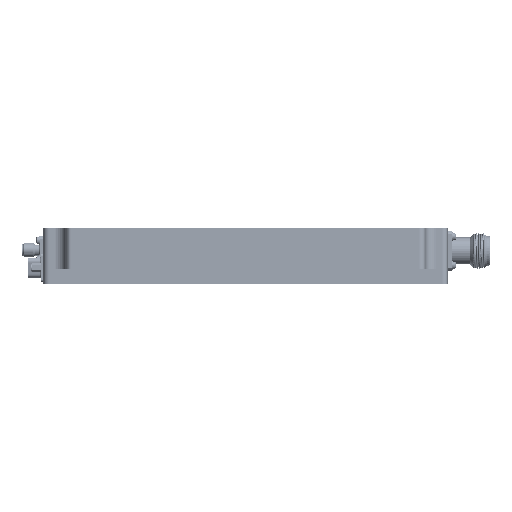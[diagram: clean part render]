
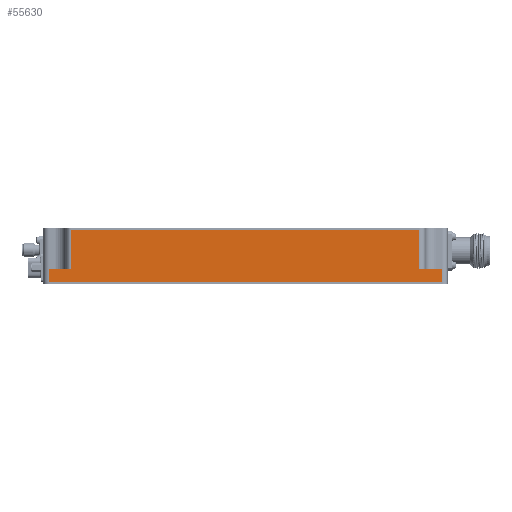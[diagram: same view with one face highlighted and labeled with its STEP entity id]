
A CAD part, front view. The second image highlights one B-rep face of the part: STEP entity #55630.
In plain terms, the highlighted planar face has unit normal (0, -1, 0).
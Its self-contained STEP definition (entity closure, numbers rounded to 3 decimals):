
#27 = EDGE_CURVE ( 'NONE', #34122, #17589, #30613, .T. ) ;
#354 = VECTOR ( 'NONE', #53076, 1000. ) ;
#1210 = EDGE_LOOP ( 'NONE', ( #50122, #26664, #55564, #27562, #38246, #64899, #22857, #36528 ) ) ;
#1937 = VERTEX_POINT ( 'NONE', #58488 ) ;
#4380 = CARTESIAN_POINT ( 'NONE',  ( 2.5, 0., 5.8 ) ) ;
#5806 = CARTESIAN_POINT ( 'NONE',  ( 0., 0., 23. ) ) ;
#6002 = VERTEX_POINT ( 'NONE', #25335 ) ;
#6797 = DIRECTION ( 'NONE',  ( 0., 0., 1. ) ) ;
#7760 = PLANE ( 'NONE',  #61375 ) ;
#8313 = EDGE_CURVE ( 'NONE', #34731, #34122, #30806, .T. ) ;
#8381 = CARTESIAN_POINT ( 'NONE',  ( 167.5, 0., 23. ) ) ;
#9065 = VECTOR ( 'NONE', #55945, 1000. ) ;
#10765 = LINE ( 'NONE', #66854, #9065 ) ;
#10921 = VERTEX_POINT ( 'NONE', #4380 ) ;
#11405 = EDGE_CURVE ( 'NONE', #6002, #1937, #33552, .T. ) ;
#13284 = CARTESIAN_POINT ( 'NONE',  ( 2.5, 0., 5.8 ) ) ;
#13401 = CARTESIAN_POINT ( 'NONE',  ( 12.5, 0., 23. ) ) ;
#14070 = LINE ( 'NONE', #14142, #354 ) ;
#14142 = CARTESIAN_POINT ( 'NONE',  ( 2.5, 0., 5.8 ) ) ;
#14299 = EDGE_CURVE ( 'NONE', #1937, #53774, #44469, .T. ) ;
#16258 = DIRECTION ( 'NONE',  ( 0., 0., 1. ) ) ;
#16871 = DIRECTION ( 'NONE',  ( 1., 0., 0. ) ) ;
#17589 = VERTEX_POINT ( 'NONE', #66836 ) ;
#18624 = DIRECTION ( 'NONE',  ( 0., 1., 0. ) ) ;
#19347 = CARTESIAN_POINT ( 'NONE',  ( 177.5, 0., 0. ) ) ;
#22096 = VECTOR ( 'NONE', #41942, 1000. ) ;
#22857 = ORIENTED_EDGE ( 'NONE', *, *, #26351, .F. ) ;
#24932 = VERTEX_POINT ( 'NONE', #28796 ) ;
#25335 = CARTESIAN_POINT ( 'NONE',  ( 177.5, 0., 5.8 ) ) ;
#26351 = EDGE_CURVE ( 'NONE', #24932, #6002, #10765, .T. ) ;
#26664 = ORIENTED_EDGE ( 'NONE', *, *, #8313, .F. ) ;
#27562 = ORIENTED_EDGE ( 'NONE', *, *, #59778, .F. ) ;
#28438 = DIRECTION ( 'NONE',  ( 0., 0., -1. ) ) ;
#28796 = CARTESIAN_POINT ( 'NONE',  ( 167.5, 0., 5.8 ) ) ;
#30613 = LINE ( 'NONE', #5806, #41014 ) ;
#30806 = LINE ( 'NONE', #34859, #67186 ) ;
#33552 = LINE ( 'NONE', #44892, #62969 ) ;
#34116 = CARTESIAN_POINT ( 'NONE',  ( 12.5, 0., 5.8 ) ) ;
#34122 = VERTEX_POINT ( 'NONE', #13401 ) ;
#34731 = VERTEX_POINT ( 'NONE', #34116 ) ;
#34859 = CARTESIAN_POINT ( 'NONE',  ( 12.5, 0., 5.8 ) ) ;
#35857 = VECTOR ( 'NONE', #63590, 1000. ) ;
#36528 = ORIENTED_EDGE ( 'NONE', *, *, #65402, .F. ) ;
#38246 = ORIENTED_EDGE ( 'NONE', *, *, #14299, .F. ) ;
#38617 = CARTESIAN_POINT ( 'NONE',  ( 2.5, 0., 5.8 ) ) ;
#41014 = VECTOR ( 'NONE', #61361, 1000. ) ;
#41942 = DIRECTION ( 'NONE',  ( 0., 0., -1. ) ) ;
#42295 = EDGE_CURVE ( 'NONE', #10921, #34731, #47594, .T. ) ;
#44469 = LINE ( 'NONE', #19347, #35857 ) ;
#44892 = CARTESIAN_POINT ( 'NONE',  ( 177.5, 0., 5.8 ) ) ;
#44929 = VECTOR ( 'NONE', #16871, 1000. ) ;
#47594 = LINE ( 'NONE', #38617, #44929 ) ;
#48959 = CARTESIAN_POINT ( 'NONE',  ( 2.5, 0., 0. ) ) ;
#50122 = ORIENTED_EDGE ( 'NONE', *, *, #27, .F. ) ;
#53076 = DIRECTION ( 'NONE',  ( 0., 0., 1. ) ) ;
#53774 = VERTEX_POINT ( 'NONE', #48959 ) ;
#54144 = LINE ( 'NONE', #8381, #22096 ) ;
#54256 = FACE_OUTER_BOUND ( 'NONE', #1210, .T. ) ;
#55564 = ORIENTED_EDGE ( 'NONE', *, *, #42295, .F. ) ;
#55630 = ADVANCED_FACE ( 'NONE', ( #54256 ), #7760, .F. ) ;
#55945 = DIRECTION ( 'NONE',  ( 1., 0., 0. ) ) ;
#58488 = CARTESIAN_POINT ( 'NONE',  ( 177.5, 0., 0. ) ) ;
#59778 = EDGE_CURVE ( 'NONE', #53774, #10921, #14070, .T. ) ;
#61361 = DIRECTION ( 'NONE',  ( 1., 0., 0. ) ) ;
#61375 = AXIS2_PLACEMENT_3D ( 'NONE', #13284, #18624, #6797 ) ;
#62969 = VECTOR ( 'NONE', #28438, 1000. ) ;
#63590 = DIRECTION ( 'NONE',  ( -1., 0., 0. ) ) ;
#64899 = ORIENTED_EDGE ( 'NONE', *, *, #11405, .F. ) ;
#65402 = EDGE_CURVE ( 'NONE', #17589, #24932, #54144, .T. ) ;
#66836 = CARTESIAN_POINT ( 'NONE',  ( 167.5, 0., 23. ) ) ;
#66854 = CARTESIAN_POINT ( 'NONE',  ( 2.5, 0., 5.8 ) ) ;
#67186 = VECTOR ( 'NONE', #16258, 1000. ) ;
